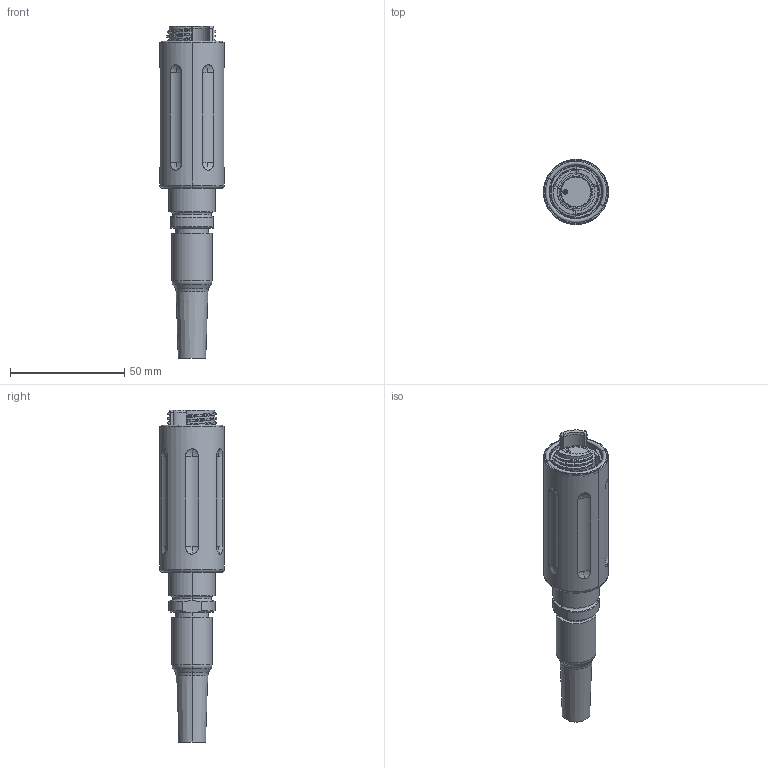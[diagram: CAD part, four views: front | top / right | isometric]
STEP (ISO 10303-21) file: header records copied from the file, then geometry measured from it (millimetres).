
FILE_DESCRIPTION (( 'STEP AP214' ), '1' );
FILE_NAME ('QMINI-PEXX-XXXX-S105.STEP', '2025-05-20T23:34:45', ( '' ), ( '' ), 'SwSTEP 2.0', 'SolidWorks 2024', '' );
FILE_SCHEMA (( 'AUTOMOTIVE_DESIGN' ));
Length unit declared in the file: inch
Products named in the file (1): QMINI-PEXX-XXXX-S105
Bounding box: 28.35 x 28.35 x 145.11 mm (x, y, z)
Volume: 50728 mm3; surface area: 15091.1 mm2
Topology: 1 solids, 2 shells, 214 faces, 530 edges, 338 vertices
Faces by surface type: cylinder 70, plane 46, torus 32, sphere 24, cone 22, bspline 20
Entity records: 8971 total; most frequent: CARTESIAN_POINT 4118, ORIENTED_EDGE 1060, DIRECTION 969, EDGE_CURVE 530, AXIS2_PLACEMENT_3D 399, VERTEX_POINT 338, EDGE_LOOP 234, FACE_OUTER_BOUND 214
